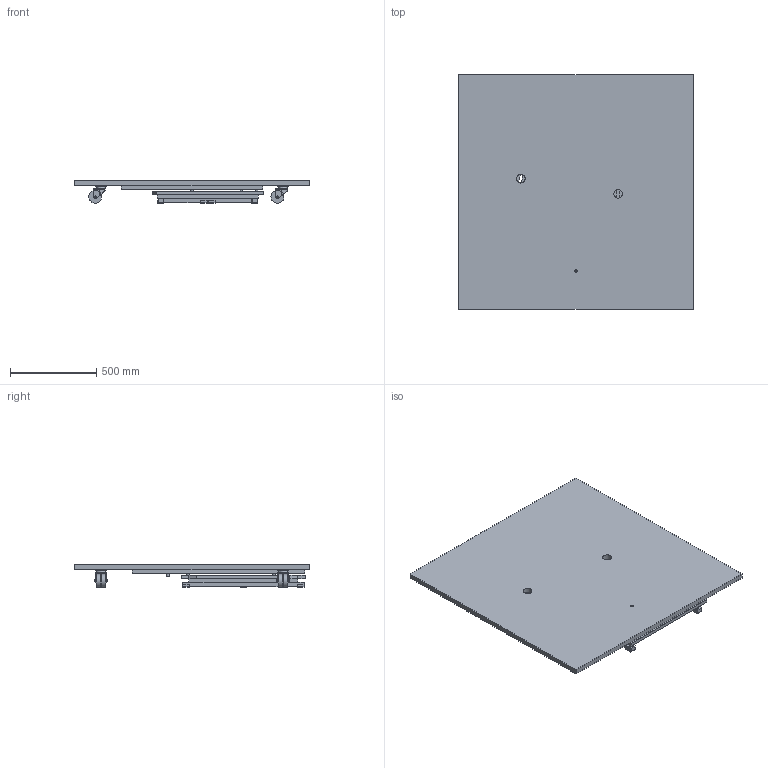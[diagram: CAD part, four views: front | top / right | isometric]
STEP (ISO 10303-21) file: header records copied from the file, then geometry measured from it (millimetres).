
FILE_DESCRIPTION( ( 'STEP AP214' ), '1' );
FILE_NAME( 'D:/YUG/2025/QC/roomspin/roomspin_1400_180.stp', '2025-04-02T11:23:36', ( '' ), ( '' ), ' ', 'PARTsolutions', ' ' );
FILE_SCHEMA( ( 'AUTOMOTIVE_DESIGN { 1 0 10303 214 1 1 1 1 }' ) );
Length unit declared in the file: millimetre
Products named in the file (5): 96458463 dummy_rs1400 _180; _base_element_1400; _functional_element_1400; _base_plate_1400; _roles
Assembly tree (7 placements, depth 2):
  96458463 dummy_rs1400 _180
    _base_element_1400
    _functional_element_1400
    _base_plate_1400
    _roles  x4
Bounding box: 1362 x 1362 x 131 mm (x, y, z)
Volume: 90458690.6 mm3; surface area: 6995842 mm2
Topology: 7 solids, 15 shells, 428 faces, 1016 edges, 666 vertices
Faces by surface type: plane 286, cylinder 138, bspline 4
Full cylindrical faces by diameter (mm): 5 x16, 5.4 x13, 8 x6, 8.3 x2, 9 x4, 10 x20, 15 x1, 16 x4, 50 x4, 75 x8
Entity records: 9905 total; most frequent: CARTESIAN_POINT 1311, DIRECTION 1298, ORIENTED_EDGE 1176, EDGE_CURVE 588, LINE 436, VECTOR 436, AXIS2_PLACEMENT_3D 431, VERTEX_POINT 416
